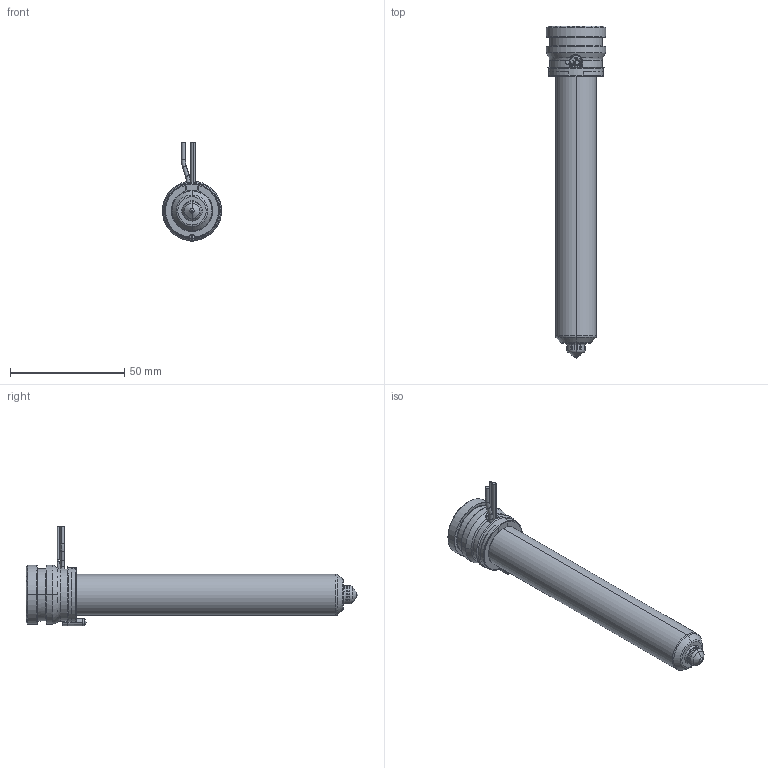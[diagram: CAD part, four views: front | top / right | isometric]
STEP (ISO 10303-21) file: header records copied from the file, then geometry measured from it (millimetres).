
FILE_DESCRIPTION((''),'2;1');
FILE_NAME('MPN-08-24-TX8-126-A','2026-02-05T11:54:52',('UPTIO'),('Thermoplay S.p.A.'),'CREO PARAMETRIC BY PTC INC, 2023494','CREO PARAMETRIC BY PTC INC, 2023494','');
FILE_SCHEMA(('CONFIG_CONTROL_DESIGN','SHAPE_APPEARANCE_LAYERS_GROUPS'));
Length unit declared in the file: millimetre
Products named in the file (1): MPN-08-24-TX8-126-A
Bounding box: 26 x 145.5 x 43.5 mm (x, y, z)
Volume: 27843.6 mm3; surface area: 35714.4 mm2
Topology: 2 solids, 3 shells, 548 faces, 1458 edges, 904 vertices
Faces by surface type: cylinder 180, plane 144, bspline 82, torus 64, cone 60, sphere 12, extrusion 6
Entity records: 29970 total; most frequent: CARTESIAN_POINT 13624, ORIENTED_EDGE 2896, DIRECTION 2574, EDGE_CURVE 1448, AXIS2_PLACEMENT_3D 1006, VERTEX_POINT 904, EDGE_LOOP 576, VECTOR 562
